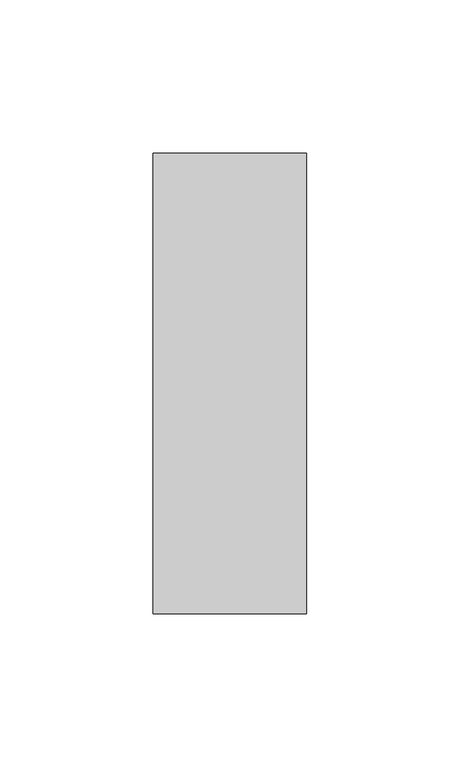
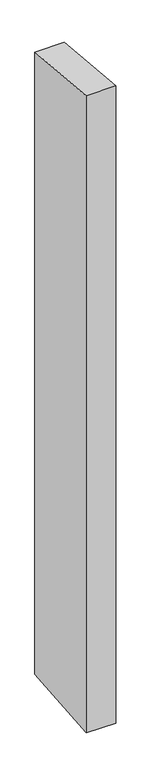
"""IFC4 building model written with IfcOpenShell, lengths in millimetres: member geometry, Прямоугольный импост : 50 x 150 мм."""

from ifc_helpers import new_model, si_unit, origin, place, context, project, spatial, faceted_brep, source, transform, mapped, element, save


def member_3bfb59ca(model_context):
    return source(origin(), model_context, "Body", "Brep", [
        faceted_brep([(-25.0, 75.0, -6.5499941), (25.0, 75.0, -6.4471339), (25.0, 75.0, -1118.6184487), (-25.0, 75.0, -1118.4549541), (-25.0, -75.0, 6.4471339), (-25.0, -75.0, -1132.8786601), (25.0, -75.0, 6.5499941), (25.0, -75.0, -1133.0421547)], [[[0, 1, 2, 3]], [[4, 0, 3, 5]], [[6, 4, 5, 7]], [[1, 6, 7, 2]], [[1, 0, 4, 6]], [[2, 7, 5, 3]]]),
    ])


if __name__ == "__main__":
    model = new_model("IFC4")
    model_context = context("Model", 3, world=origin())
    ifc_project = project(units=[si_unit("LENGTHUNIT", "METRE", prefix="MILLI")], contexts=[model_context])
    site = spatial("IfcSite", under=ifc_project)
    building = spatial("IfcBuilding", under=site)
    placement = place(None, origin())
    member_shape = member_3bfb59ca(model_context)
    element("IfcMember", 1, ObjectType="Прямоугольный импост : 50 x 150 мм", at=placement, inside=building, context=model_context, shape_type="MappedRepresentation", body=[
        mapped(member_shape, transform((0.0, 0.0, 0.0), x_axis=(1.0, 0.0, 0.0), y_axis=(0.0, 1.0, 0.0), z_axis=(0.0, 0.0, 1.0))),
    ])
    save(model, "model.ifc")
